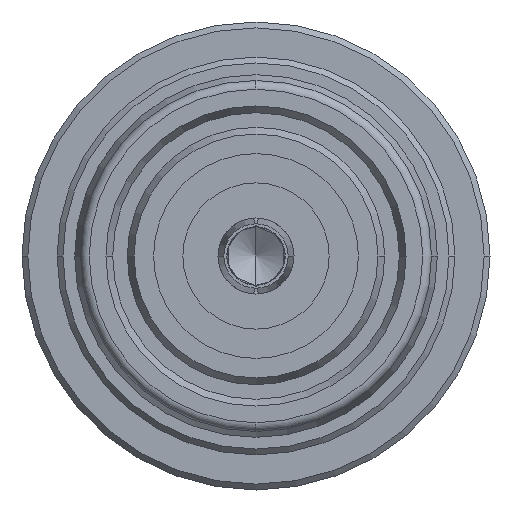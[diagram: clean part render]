
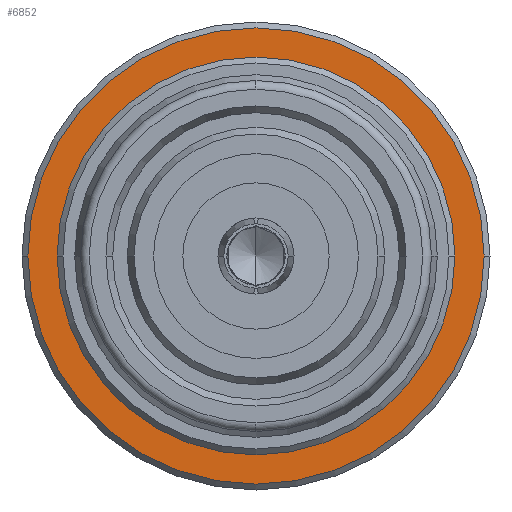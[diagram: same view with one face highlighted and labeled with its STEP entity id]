
A CAD part, left-side view. The second image highlights one B-rep face of the part: STEP entity #6852.
In plain terms, the highlighted planar face has unit normal (-1, 0, 0).
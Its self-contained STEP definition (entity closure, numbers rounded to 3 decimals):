
#1375=CARTESIAN_POINT('',(69.5,-19.5,0.0));
#1376=VERTEX_POINT('',#1375);
#1383=CARTESIAN_POINT('',(69.5,19.5,0.));
#1384=VERTEX_POINT('',#1383);
#1385=CARTESIAN_POINT('',(69.5,0.0,0.0));
#1386=DIRECTION('',(1.0,0.0,0.0));
#1387=DIRECTION('',(0.0,-1.0,0.0));
#1388=AXIS2_PLACEMENT_3D('',#1385,#1386,#1387);
#1389=CIRCLE('',#1388,19.5);
#1390=EDGE_CURVE('',#1376,#1384,#1389,.T.);
#1409=CARTESIAN_POINT('',(69.5,-17.0,0.0));
#1410=VERTEX_POINT('',#1409);
#1426=CARTESIAN_POINT('',(69.5,17.0,0.));
#1427=VERTEX_POINT('',#1426);
#1434=CARTESIAN_POINT('',(69.5,0.0,0.0));
#1435=DIRECTION('',(1.0,0.0,0.0));
#1436=DIRECTION('',(0.0,-1.0,0.0));
#1437=AXIS2_PLACEMENT_3D('',#1434,#1435,#1436);
#1438=CIRCLE('',#1437,17.0);
#1439=EDGE_CURVE('',#1410,#1427,#1438,.T.);
#6821=CARTESIAN_POINT('',(69.5,0.0,0.0));
#6822=DIRECTION('',(1.0,0.0,0.0));
#6823=DIRECTION('',(0.0,-1.0,0.0));
#6824=AXIS2_PLACEMENT_3D('',#6821,#6822,#6823);
#6825=CIRCLE('',#6824,17.0);
#6826=EDGE_CURVE('',#1427,#1410,#6825,.T.);
#6833=CARTESIAN_POINT('',(69.5,-18.25,0.0));
#6834=DIRECTION('',(-1.0,0.0,0.0));
#6835=DIRECTION('',(0.0,0.0,1.0));
#6836=AXIS2_PLACEMENT_3D('',#6833,#6834,#6835);
#6837=PLANE('',#6836);
#6838=ORIENTED_EDGE('',*,*,#1390,.F.);
#6839=CARTESIAN_POINT('',(69.5,0.0,0.0));
#6840=DIRECTION('',(1.0,0.0,0.0));
#6841=DIRECTION('',(0.0,-1.0,0.0));
#6842=AXIS2_PLACEMENT_3D('',#6839,#6840,#6841);
#6843=CIRCLE('',#6842,19.5);
#6844=EDGE_CURVE('',#1384,#1376,#6843,.T.);
#6845=ORIENTED_EDGE('',*,*,#6844,.F.);
#6846=EDGE_LOOP('',(#6838,#6845));
#6847=FACE_OUTER_BOUND('',#6846,.T.);
#6848=ORIENTED_EDGE('',*,*,#1439,.T.);
#6849=ORIENTED_EDGE('',*,*,#6826,.T.);
#6850=EDGE_LOOP('',(#6848,#6849));
#6851=FACE_BOUND('',#6850,.T.);
#6852=ADVANCED_FACE('',(#6847,#6851),#6837,.T.);
